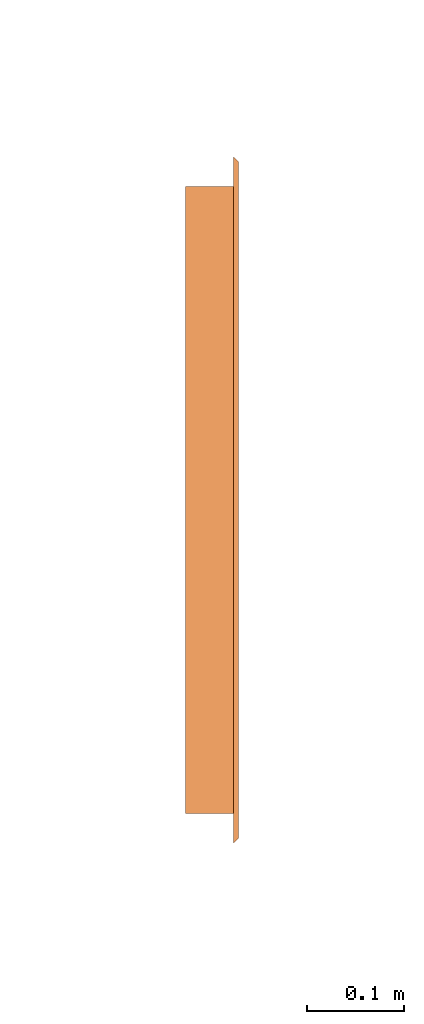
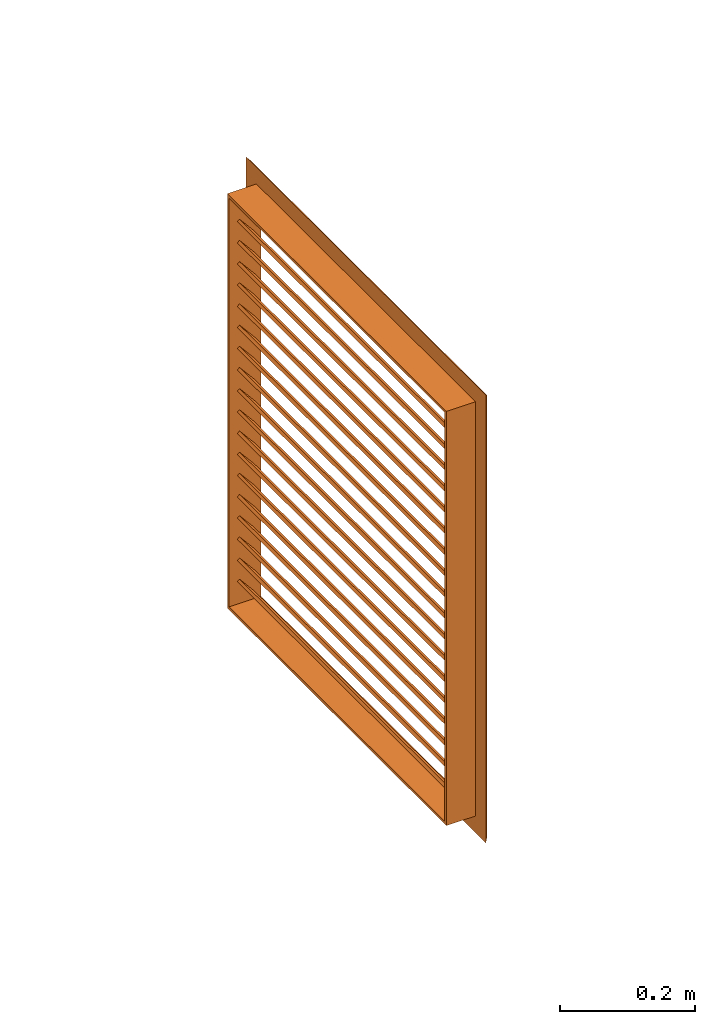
# One storey, part 2 of 2: 1 proxy.
"""IFC2X3 building model written with IfcOpenShell, lengths in metres."""

from ifc_helpers import new_model, entity, si_unit, converted_unit, derived_unit, direction, frame, origin, place, context, subcontext, project, spatial, faceted_brep, source, transform, mapped, material, material_list, type_object, type_shapes, element, save


model = new_model("IFC2X3")

# Units and contexts
model_context = context("Model", 3, precision=1e-05, world=origin(), true_north=direction((6.12303176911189e-17, 1.0)))
body_context = subcontext(model_context, "Body", "Model", "MODEL_VIEW")
ifc_project = project(units=[si_unit("LENGTHUNIT", "METRE"), si_unit("AREAUNIT", "SQUARE_METRE"), si_unit("VOLUMEUNIT", "CUBIC_METRE"), converted_unit("PLANEANGLEUNIT", "DEGREE", entity("IfcRatioMeasure", 0.0174532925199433), si_unit("PLANEANGLEUNIT", "RADIAN"), dimensions=[0, 0, 0, 0, 0, 0, 0]), si_unit("MASSUNIT", "GRAM", prefix="KILO"), derived_unit("MASSDENSITYUNIT", [(si_unit("MASSUNIT", "GRAM", prefix="KILO"), 1), (si_unit("LENGTHUNIT", "METRE"), -3)]), derived_unit("MOMENTOFINERTIAUNIT", [(si_unit("LENGTHUNIT", "METRE"), 4)]), si_unit("TIMEUNIT", "SECOND"), si_unit("FREQUENCYUNIT", "HERTZ"), si_unit("THERMODYNAMICTEMPERATUREUNIT", "DEGREE_CELSIUS"), derived_unit("THERMALTRANSMITTANCEUNIT", [(si_unit("MASSUNIT", "GRAM", prefix="KILO"), 1), (si_unit("THERMODYNAMICTEMPERATUREUNIT", "KELVIN"), -1), (si_unit("TIMEUNIT", "SECOND"), -3)]), derived_unit("VOLUMETRICFLOWRATEUNIT", [(si_unit("LENGTHUNIT", "METRE"), 3), (si_unit("TIMEUNIT", "SECOND"), -1)]), si_unit("ELECTRICCURRENTUNIT", "AMPERE"), si_unit("ELECTRICVOLTAGEUNIT", "VOLT"), si_unit("POWERUNIT", "WATT"), si_unit("FORCEUNIT", "NEWTON", prefix="KILO"), si_unit("ILLUMINANCEUNIT", "LUX"), si_unit("LUMINOUSFLUXUNIT", "LUMEN"), si_unit("LUMINOUSINTENSITYUNIT", "CANDELA"), derived_unit("USERDEFINED", [(si_unit("MASSUNIT", "GRAM", prefix="KILO"), -1), (si_unit("LENGTHUNIT", "METRE"), -2), (si_unit("TIMEUNIT", "SECOND"), 3), (si_unit("LUMINOUSFLUXUNIT", "LUMEN"), 1)]), derived_unit("LINEARVELOCITYUNIT", [(si_unit("LENGTHUNIT", "METRE"), 1), (si_unit("TIMEUNIT", "SECOND"), -1)]), si_unit("PRESSUREUNIT", "PASCAL"), derived_unit("USERDEFINED", [(si_unit("LENGTHUNIT", "METRE"), -2), (si_unit("MASSUNIT", "GRAM", prefix="KILO"), 1), (si_unit("TIMEUNIT", "SECOND"), -2)]), derived_unit("LINEARFORCEUNIT", [(si_unit("MASSUNIT", "GRAM", prefix="KILO"), 1), (si_unit("LENGTHUNIT", "METRE"), 1), (si_unit("TIMEUNIT", "SECOND"), -2), (si_unit("LENGTHUNIT", "METRE"), -1)]), derived_unit("PLANARFORCEUNIT", [(si_unit("MASSUNIT", "GRAM", prefix="KILO"), 1), (si_unit("LENGTHUNIT", "METRE"), 1), (si_unit("TIMEUNIT", "SECOND"), -2), (si_unit("LENGTHUNIT", "METRE"), -2)])], contexts=[model_context])

# Site, building, storey
site_placement = place(None, origin())
site = spatial("IfcSite", under=ifc_project, at=site_placement, Name="Default", CompositionType="ELEMENT")
building_placement = place(site_placement, origin())
building = spatial("IfcBuilding", under=site, at=building_placement, CompositionType="ELEMENT")
storey_placement = place(building_placement, frame((0.0, 0.0, 9.74730827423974)))
storey = spatial("IfcBuildingStorey", under=building, at=storey_placement, Name="Niveau 3 - 02", CompositionType="ELEMENT", Elevation=9.74730827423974)

# Proxy
ifc_material = material(Name="Acier - Galvanisé")
ifc_material_list = material_list([ifc_material, ifc_material])
building_element_proxy_type = type_object("IfcBuildingElementProxyType", Name="Grille d'aération - Mur:Type A", PredefinedType="NOTDEFINED", material=ifc_material_list)
shared_shape = source(origin(), body_context, "Body", "Brep", [
    faceted_brep([(0.675284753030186, 0.0142884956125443, 0.114259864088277), (0.675284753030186, 0.0400000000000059, 0.083618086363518), (0.675284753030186, 0.0438302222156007, 0.0868320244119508), (0.675284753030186, 0.0181187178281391, 0.11747380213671), (0.0352847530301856, 0.0142884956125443, 0.114259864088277), (0.0352847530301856, 0.0181187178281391, 0.11747380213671), (0.0352847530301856, 0.0438302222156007, 0.0868320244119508), (0.0352847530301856, 0.0400000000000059, 0.083618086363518)], [[[0, 1, 2, 3]], [[4, 5, 6, 7]], [[1, 0, 4, 7]], [[2, 1, 7, 6]], [[3, 2, 6, 5]], [[0, 3, 5, 4]]]),
    faceted_brep([(0.675284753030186, 0.0142884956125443, 0.152593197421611), (0.675284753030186, 0.0400000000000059, 0.121951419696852), (0.675284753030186, 0.0438302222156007, 0.125165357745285), (0.675284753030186, 0.0181187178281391, 0.155807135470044), (0.0352847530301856, 0.0142884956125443, 0.152593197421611), (0.0352847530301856, 0.0181187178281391, 0.155807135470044), (0.0352847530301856, 0.0438302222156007, 0.125165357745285), (0.0352847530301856, 0.0400000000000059, 0.121951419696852)], [[[0, 1, 2, 3]], [[4, 5, 6, 7]], [[1, 0, 4, 7]], [[2, 1, 7, 6]], [[3, 2, 6, 5]], [[0, 3, 5, 4]]]),
    faceted_brep([(0.675284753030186, 0.0142884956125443, 0.190926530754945), (0.675284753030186, 0.0400000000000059, 0.160284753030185), (0.675284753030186, 0.0438302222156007, 0.163498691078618), (0.675284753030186, 0.0181187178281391, 0.194140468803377), (0.0352847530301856, 0.0142884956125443, 0.190926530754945), (0.0352847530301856, 0.0181187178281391, 0.194140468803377), (0.0352847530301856, 0.0438302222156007, 0.163498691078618), (0.0352847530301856, 0.0400000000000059, 0.160284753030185)], [[[0, 1, 2, 3]], [[4, 5, 6, 7]], [[1, 0, 4, 7]], [[2, 1, 7, 6]], [[3, 2, 6, 5]], [[0, 3, 5, 4]]]),
    faceted_brep([(0.675284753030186, 0.0142884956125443, 0.229259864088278), (0.675284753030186, 0.0400000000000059, 0.198618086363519), (0.675284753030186, 0.0438302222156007, 0.201832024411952), (0.675284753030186, 0.0181187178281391, 0.232473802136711), (0.0352847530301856, 0.0142884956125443, 0.229259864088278), (0.0352847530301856, 0.0181187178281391, 0.232473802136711), (0.0352847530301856, 0.0438302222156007, 0.201832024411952), (0.0352847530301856, 0.0400000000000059, 0.198618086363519)], [[[0, 1, 2, 3]], [[4, 5, 6, 7]], [[1, 0, 4, 7]], [[2, 1, 7, 6]], [[3, 2, 6, 5]], [[0, 3, 5, 4]]]),
    faceted_brep([(0.675284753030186, 0.014288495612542, 0.267593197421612), (0.675284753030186, 0.0400000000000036, 0.236951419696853), (0.675284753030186, 0.0438302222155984, 0.240165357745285), (0.675284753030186, 0.0181187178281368, 0.270807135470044), (0.0352847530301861, 0.014288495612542, 0.267593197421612), (0.0352847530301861, 0.0181187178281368, 0.270807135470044), (0.0352847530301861, 0.0438302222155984, 0.240165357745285), (0.0352847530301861, 0.0400000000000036, 0.236951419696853)], [[[0, 1, 2, 3]], [[4, 5, 6, 7]], [[1, 0, 4, 7]], [[2, 1, 7, 6]], [[3, 2, 6, 5]], [[0, 3, 5, 4]]]),
    faceted_brep([(0.675284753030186, 0.0142884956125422, 0.305926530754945), (0.675284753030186, 0.0400000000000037, 0.275284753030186), (0.675284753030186, 0.0438302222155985, 0.278498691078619), (0.675284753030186, 0.0181187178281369, 0.309140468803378), (0.0352847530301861, 0.0142884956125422, 0.305926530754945), (0.0352847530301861, 0.0181187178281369, 0.309140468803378), (0.0352847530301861, 0.0438302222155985, 0.278498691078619), (0.0352847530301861, 0.0400000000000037, 0.275284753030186)], [[[0, 1, 2, 3]], [[4, 5, 6, 7]], [[1, 0, 4, 7]], [[2, 1, 7, 6]], [[3, 2, 6, 5]], [[0, 3, 5, 4]]]),
    faceted_brep([(0.675284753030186, 0.0142884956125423, 0.344259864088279), (0.675284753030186, 0.0400000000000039, 0.31361808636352), (0.675284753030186, 0.0438302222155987, 0.316832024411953), (0.675284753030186, 0.0181187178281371, 0.347473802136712), (0.0352847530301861, 0.0142884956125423, 0.344259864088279), (0.0352847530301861, 0.0181187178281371, 0.347473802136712), (0.0352847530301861, 0.0438302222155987, 0.316832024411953), (0.0352847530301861, 0.0400000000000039, 0.31361808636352)], [[[0, 1, 2, 3]], [[4, 5, 6, 7]], [[1, 0, 4, 7]], [[2, 1, 7, 6]], [[3, 2, 6, 5]], [[0, 3, 5, 4]]]),
    faceted_brep([(0.675284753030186, 0.0142884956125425, 0.382593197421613), (0.675284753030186, 0.0400000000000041, 0.351951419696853), (0.675284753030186, 0.0438302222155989, 0.355165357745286), (0.675284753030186, 0.0181187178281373, 0.385807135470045), (0.0352847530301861, 0.0142884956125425, 0.382593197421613), (0.0352847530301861, 0.0181187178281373, 0.385807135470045), (0.0352847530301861, 0.0438302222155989, 0.355165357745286), (0.0352847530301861, 0.0400000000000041, 0.351951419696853)], [[[0, 1, 2, 3]], [[4, 5, 6, 7]], [[1, 0, 4, 7]], [[2, 1, 7, 6]], [[3, 2, 6, 5]], [[0, 3, 5, 4]]]),
    faceted_brep([(0.675284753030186, 0.0142884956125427, 0.420926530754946), (0.675284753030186, 0.0400000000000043, 0.390284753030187), (0.675284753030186, 0.0438302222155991, 0.39349869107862), (0.675284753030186, 0.0181187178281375, 0.424140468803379), (0.0352847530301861, 0.0142884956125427, 0.420926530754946), (0.0352847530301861, 0.0181187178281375, 0.424140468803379), (0.0352847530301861, 0.0438302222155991, 0.39349869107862), (0.0352847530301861, 0.0400000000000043, 0.390284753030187)], [[[0, 1, 2, 3]], [[4, 5, 6, 7]], [[1, 0, 4, 7]], [[2, 1, 7, 6]], [[3, 2, 6, 5]], [[0, 3, 5, 4]]]),
    faceted_brep([(0.675284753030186, 0.0142884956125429, 0.45925986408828), (0.675284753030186, 0.0400000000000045, 0.428618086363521), (0.675284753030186, 0.0438302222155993, 0.431832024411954), (0.675284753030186, 0.0181187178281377, 0.462473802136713), (0.0352847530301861, 0.0142884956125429, 0.45925986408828), (0.0352847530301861, 0.0181187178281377, 0.462473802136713), (0.0352847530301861, 0.0438302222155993, 0.431832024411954), (0.0352847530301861, 0.0400000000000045, 0.428618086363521)], [[[0, 1, 2, 3]], [[4, 5, 6, 7]], [[1, 0, 4, 7]], [[2, 1, 7, 6]], [[3, 2, 6, 5]], [[0, 3, 5, 4]]]),
    faceted_brep([(0.675284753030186, 0.0142884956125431, 0.497593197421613), (0.675284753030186, 0.0400000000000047, 0.466951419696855), (0.675284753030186, 0.0438302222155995, 0.470165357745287), (0.675284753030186, 0.0181187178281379, 0.500807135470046), (0.0352847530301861, 0.0142884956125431, 0.497593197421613), (0.0352847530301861, 0.0181187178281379, 0.500807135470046), (0.0352847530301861, 0.0438302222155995, 0.470165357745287), (0.0352847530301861, 0.0400000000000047, 0.466951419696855)], [[[0, 1, 2, 3]], [[4, 5, 6, 7]], [[1, 0, 4, 7]], [[2, 1, 7, 6]], [[3, 2, 6, 5]], [[0, 3, 5, 4]]]),
    faceted_brep([(0.675284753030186, 0.0142884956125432, 0.535926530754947), (0.675284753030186, 0.0400000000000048, 0.505284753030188), (0.675284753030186, 0.0438302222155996, 0.508498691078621), (0.675284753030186, 0.018118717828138, 0.53914046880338), (0.0352847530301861, 0.0142884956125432, 0.535926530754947), (0.0352847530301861, 0.018118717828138, 0.53914046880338), (0.0352847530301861, 0.0438302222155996, 0.508498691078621), (0.0352847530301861, 0.0400000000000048, 0.505284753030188)], [[[0, 1, 2, 3]], [[4, 5, 6, 7]], [[1, 0, 4, 7]], [[2, 1, 7, 6]], [[3, 2, 6, 5]], [[0, 3, 5, 4]]]),
    faceted_brep([(0.675284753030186, 0.0142884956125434, 0.574259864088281), (0.675284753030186, 0.040000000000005, 0.543618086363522), (0.675284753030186, 0.0438302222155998, 0.546832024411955), (0.675284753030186, 0.0181187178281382, 0.577473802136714), (0.0352847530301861, 0.0142884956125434, 0.574259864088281), (0.0352847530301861, 0.0181187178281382, 0.577473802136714), (0.0352847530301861, 0.0438302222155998, 0.546832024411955), (0.0352847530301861, 0.040000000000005, 0.543618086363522)], [[[0, 1, 2, 3]], [[4, 5, 6, 7]], [[1, 0, 4, 7]], [[2, 1, 7, 6]], [[3, 2, 6, 5]], [[0, 3, 5, 4]]]),
    faceted_brep([(0.675284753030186, 0.0142884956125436, 0.612593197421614), (0.675284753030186, 0.0400000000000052, 0.581951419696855), (0.675284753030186, 0.0438302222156, 0.585165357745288), (0.675284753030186, 0.0181187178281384, 0.615807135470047), (0.0352847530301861, 0.0142884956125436, 0.612593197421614), (0.0352847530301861, 0.0181187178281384, 0.615807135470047), (0.0352847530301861, 0.0438302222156, 0.585165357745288), (0.0352847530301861, 0.0400000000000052, 0.581951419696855)], [[[0, 1, 2, 3]], [[4, 5, 6, 7]], [[1, 0, 4, 7]], [[2, 1, 7, 6]], [[3, 2, 6, 5]], [[0, 3, 5, 4]]]),
    faceted_brep([(0.675284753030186, 0.0142884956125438, 0.650926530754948), (0.675284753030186, 0.0400000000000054, 0.620284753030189), (0.675284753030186, 0.0438302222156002, 0.623498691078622), (0.675284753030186, 0.0181187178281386, 0.65414046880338), (0.0352847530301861, 0.0142884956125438, 0.650926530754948), (0.0352847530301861, 0.0181187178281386, 0.65414046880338), (0.0352847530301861, 0.0438302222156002, 0.623498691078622), (0.0352847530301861, 0.0400000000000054, 0.620284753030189)], [[[0, 1, 2, 3]], [[4, 5, 6, 7]], [[1, 0, 4, 7]], [[2, 1, 7, 6]], [[3, 2, 6, 5]], [[0, 3, 5, 4]]]),
    faceted_brep([(0.675284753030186, 0.014288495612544, 0.689259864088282), (0.675284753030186, 0.0400000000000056, 0.658618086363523), (0.675284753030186, 0.0438302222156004, 0.661832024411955), (0.675284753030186, 0.0181187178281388, 0.692473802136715), (0.0352847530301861, 0.014288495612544, 0.689259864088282), (0.0352847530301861, 0.0181187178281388, 0.692473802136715), (0.0352847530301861, 0.0438302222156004, 0.661832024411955), (0.0352847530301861, 0.0400000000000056, 0.658618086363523)], [[[0, 1, 2, 3]], [[4, 5, 6, 7]], [[1, 0, 4, 7]], [[2, 1, 7, 6]], [[3, 2, 6, 5]], [[0, 3, 5, 4]]]),
    faceted_brep([(0.675284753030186, 0.0142884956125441, 0.727593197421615), (0.675284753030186, 0.0400000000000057, 0.696951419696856), (0.675284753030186, 0.0438302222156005, 0.700165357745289), (0.675284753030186, 0.0181187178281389, 0.730807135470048), (0.0352847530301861, 0.0142884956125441, 0.727593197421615), (0.0352847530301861, 0.0181187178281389, 0.730807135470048), (0.0352847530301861, 0.0438302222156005, 0.700165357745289), (0.0352847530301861, 0.0400000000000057, 0.696951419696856)], [[[0, 1, 2, 3]], [[4, 5, 6, 7]], [[1, 0, 4, 7]], [[2, 1, 7, 6]], [[3, 2, 6, 5]], [[0, 3, 5, 4]]]),
    faceted_brep([(0.675284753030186, 0.0142884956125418, 0.0759265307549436), (0.675284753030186, 0.0400000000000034, 0.0452847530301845), (0.675284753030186, 0.0438302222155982, 0.0484986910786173), (0.675284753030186, 0.0181187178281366, 0.0791404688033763), (0.0352847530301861, 0.0142884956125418, 0.0759265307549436), (0.0352847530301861, 0.0181187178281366, 0.0791404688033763), (0.0352847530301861, 0.0438302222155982, 0.0484986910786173), (0.0352847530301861, 0.0400000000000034, 0.0452847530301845)], [[[0, 1, 2, 3]], [[4, 5, 6, 7]], [[1, 0, 4, 7]], [[2, 1, 7, 6]], [[3, 2, 6, 5]], [[0, 3, 5, 4]]]),
    faceted_brep([(0.675284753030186, 0.0142884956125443, 0.765926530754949), (0.675284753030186, 0.0400000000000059, 0.73528475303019), (0.675284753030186, 0.0438302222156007, 0.738498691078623), (0.675284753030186, 0.0181187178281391, 0.769140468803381), (0.0352847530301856, 0.0142884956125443, 0.765926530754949), (0.0352847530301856, 0.0181187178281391, 0.769140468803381), (0.0352847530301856, 0.0438302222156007, 0.738498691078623), (0.0352847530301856, 0.0400000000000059, 0.73528475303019)], [[[0, 1, 2, 3]], [[4, 5, 6, 7]], [[1, 0, 4, 7]], [[2, 1, 7, 6]], [[3, 2, 6, 5]], [[0, 3, 5, 4]]]),
    faceted_brep([(0.0302847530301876, 0.0, 0.780284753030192), (0.0302847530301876, 0.05, 0.780284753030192), (0.0302847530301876, 0.05, 0.0302847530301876), (0.0302847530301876, 0.0, 0.0302847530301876), (0.0352847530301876, 0.055, 0.775284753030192), (0.0352847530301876, 0.0, 0.775284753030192), (0.0352847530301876, 0.0, 0.0352847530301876), (0.0352847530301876, 0.055, 0.0352847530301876), (0.0, 0.05, 0.810569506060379), (0.00499999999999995, 0.055, 0.805569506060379), (0.00499999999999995, 0.055, 0.00499999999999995), (0.0, 0.05, 0.0), (0.680284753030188, 0.05, 0.0302847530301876), (0.680284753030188, 0.0, 0.0302847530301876), (0.675284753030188, 0.0, 0.0352847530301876), (0.675284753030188, 0.055, 0.0352847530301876), (0.705569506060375, 0.055, 0.00499999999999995), (0.710569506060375, 0.05, 0.0), (0.680284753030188, 0.05, 0.780284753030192), (0.680284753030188, 0.0, 0.780284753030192), (0.675284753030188, 0.0, 0.775284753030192), (0.675284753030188, 0.055, 0.775284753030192), (0.705569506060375, 0.055, 0.805569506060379), (0.710569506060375, 0.05, 0.810569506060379)], [[[0, 1, 2, 3]], [[4, 5, 6, 7]], [[8, 9, 10, 11]], [[3, 2, 12, 13]], [[7, 6, 14, 15]], [[11, 10, 16, 17]], [[13, 12, 18, 19]], [[15, 14, 20, 21]], [[17, 16, 22, 23]], [[19, 18, 1, 0]], [[3, 13, 19, 0], [5, 20, 14, 6]], [[21, 20, 5, 4]], [[7, 15, 21, 4], [9, 22, 16, 10]], [[23, 22, 9, 8]], [[11, 17, 23, 8], [1, 18, 12, 2]]], outer=[[True], [True], [True], [True], [True], [True], [True], [True], [True], [True], [True, False], [True], [False, True], [True], [True, False]]),
])
type_shapes(building_element_proxy_type, [shared_shape])
proxy_placement = place(storey_placement, frame((-9.21916935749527, -5.8280330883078, 2.26971524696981), z_axis=(0.0, 0.0, 1.0), x_axis=(0.0, -1.0, 0.0)))
element("IfcBuildingElementProxy", 1, at=proxy_placement, inside=storey, type_object=building_element_proxy_type, material=ifc_material, Name="Grille d'aération - Mur:Type A", ObjectType="Grille d'aération - Mur:Type A", context=body_context, shape_type="MappedRepresentation", body=[
    mapped(shared_shape, transform((0.0, 0.0, 0.0), scale=1.0)),
])

save(model, "model.ifc")
